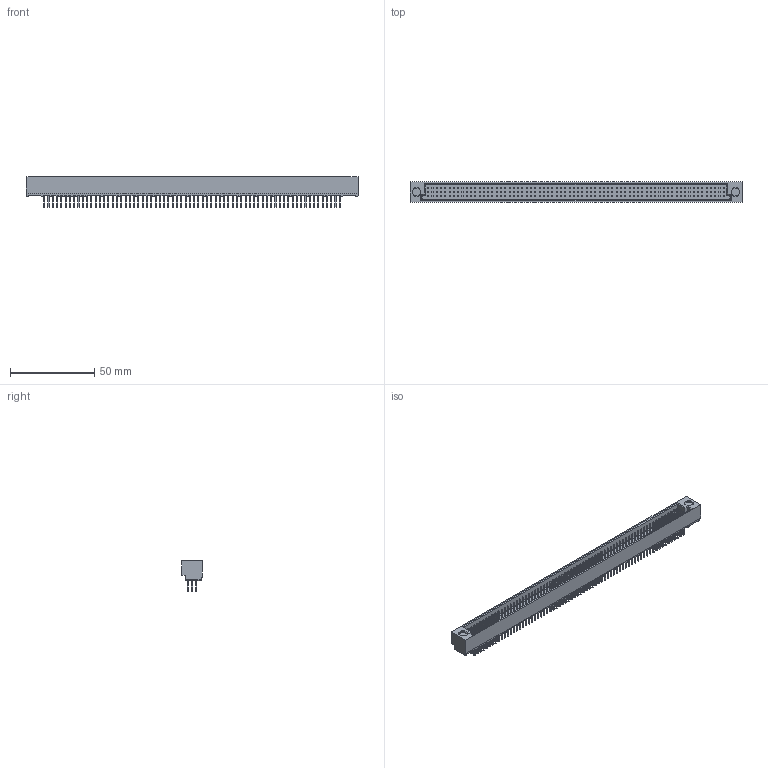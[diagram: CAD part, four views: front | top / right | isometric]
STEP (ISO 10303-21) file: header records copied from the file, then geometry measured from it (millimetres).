
FILE_DESCRIPTION((''),'2;1');
FILE_NAME('C-1-532447-1','2019-01-04T02:39:04',('workeradm'),('TE Connectivity Ltd.'),'CREO PARAMETRIC BY PTC INC, 2018190','CREO PARAMETRIC BY PTC INC, 2018190','');
FILE_SCHEMA(('AUTOMOTIVE_DESIGN { 1 0 10303 214 1 1 1 1 }'));
Length unit declared in the file: millimetre
Products named in the file (1): C-1-532447-1
Bounding box: 196.85 x 12.19 x 18.08 mm (x, y, z)
Volume: 15167.3 mm3; surface area: 18620.7 mm2
Topology: 1 solids, 1 shells, 2327 faces, 5668 edges, 3768 vertices
Faces by surface type: plane 2263, cylinder 64
Entity records: 66970 total; most frequent: CARTESIAN_POINT 11909, ORIENTED_EDGE 11336, DIRECTION 10426, EDGE_CURVE 5668, VECTOR 5548, LINE 5548, VERTEX_POINT 3768, EDGE_LOOP 2752
